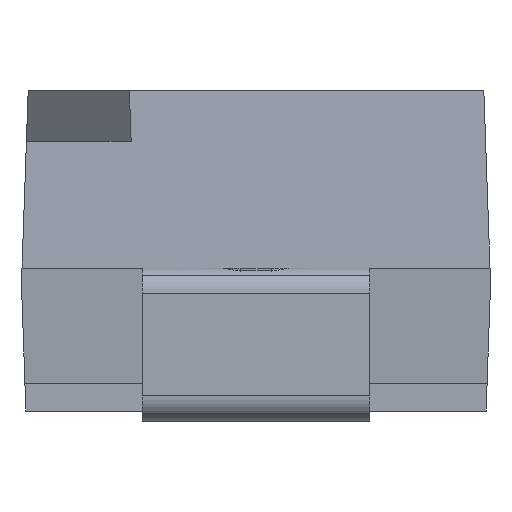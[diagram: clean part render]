
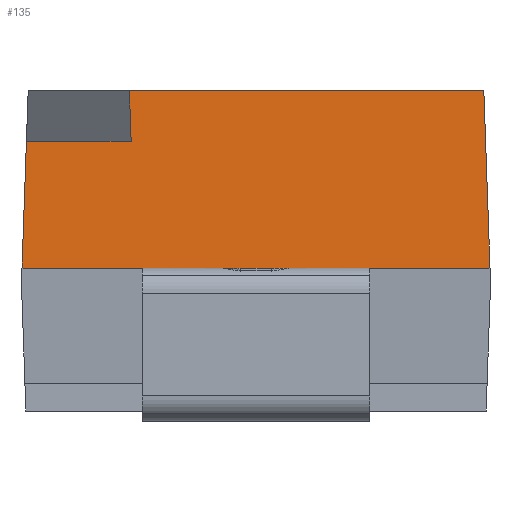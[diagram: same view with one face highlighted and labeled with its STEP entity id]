
A CAD part, front view. The second image highlights one B-rep face of the part: STEP entity #135.
In plain terms, the highlighted planar face has unit normal (0, -0.999, 0.035).
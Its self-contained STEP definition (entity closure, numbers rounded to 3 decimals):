
#135=ADVANCED_FACE('',(#276),#277,.T.);
#276=FACE_OUTER_BOUND('',#465,.T.);
#277=PLANE('',#466);
#465=EDGE_LOOP('',(#1033,#1034,#1035,#1036,#1037,#1038,#1039,#1040,#1041,#1042));
#466=AXIS2_PLACEMENT_3D('',#1043,#1044,#1045);
#1033=ORIENTED_EDGE('',*,*,#1371,.T.);
#1034=ORIENTED_EDGE('',*,*,#1369,.T.);
#1035=ORIENTED_EDGE('',*,*,#1368,.T.);
#1036=ORIENTED_EDGE('',*,*,#1385,.T.);
#1037=ORIENTED_EDGE('',*,*,#1403,.F.);
#1038=ORIENTED_EDGE('',*,*,#1404,.T.);
#1039=ORIENTED_EDGE('',*,*,#1405,.F.);
#1040=ORIENTED_EDGE('',*,*,#1383,.T.);
#1041=ORIENTED_EDGE('',*,*,#1363,.F.);
#1042=ORIENTED_EDGE('',*,*,#1358,.F.);
#1043=CARTESIAN_POINT('',(-0.9,-1.,0.0));
#1044=DIRECTION('',(0.,-0.999,0.035));
#1045=DIRECTION('',(-1.0,0.,0.0));
#1358=EDGE_CURVE('',#1684,#1686,#1687,.T.);
#1363=EDGE_CURVE('',#1686,#1690,#1694,.T.);
#1368=EDGE_CURVE('',#1695,#1701,#1703,.T.);
#1369=EDGE_CURVE('',#1704,#1695,#1705,.T.);
#1371=EDGE_CURVE('',#1684,#1704,#1707,.T.);
#1383=EDGE_CURVE('',#1721,#1690,#1725,.T.);
#1385=EDGE_CURVE('',#1701,#1727,#1729,.T.);
#1403=EDGE_CURVE('',#1759,#1727,#1760,.T.);
#1404=EDGE_CURVE('',#1759,#1761,#1762,.T.);
#1405=EDGE_CURVE('',#1721,#1761,#1763,.T.);
#1684=VERTEX_POINT('',#2197);
#1686=VERTEX_POINT('',#2200);
#1687=LINE('',#2201,#2202);
#1690=VERTEX_POINT('',#2207);
#1694=LINE('',#2213,#2214);
#1695=VERTEX_POINT('',#2215);
#1701=VERTEX_POINT('',#2224);
#1703=LINE('',#2227,#2228);
#1704=VERTEX_POINT('',#2229);
#1705=LINE('',#2230,#2231);
#1707=LINE('',#2234,#2235);
#1721=VERTEX_POINT('',#2258);
#1725=LINE('',#2264,#2265);
#1727=VERTEX_POINT('',#2267);
#1729=LINE('',#2270,#2271);
#1759=VERTEX_POINT('',#2315);
#1760=LINE('',#2316,#2317);
#1761=VERTEX_POINT('',#2318);
#1762=LINE('',#2319,#2320);
#1763=LINE('',#2321,#2322);
#2197=CARTESIAN_POINT('',(-0.5,-1.,0.0));
#2200=CARTESIAN_POINT('',(0.9,-1.,0.0));
#2201=CARTESIAN_POINT('',(-0.5,-1.,0.0));
#2202=VECTOR('',#2654,1.4);
#2207=CARTESIAN_POINT('',(0.924,-1.024,-0.7));
#2213=CARTESIAN_POINT('',(0.9,-1.,0.0));
#2214=VECTOR('',#2659,0.701);
#2215=CARTESIAN_POINT('',(-0.907,-1.007,-0.2));
#2224=CARTESIAN_POINT('',(-0.924,-1.024,-0.7));
#2227=CARTESIAN_POINT('',(-0.907,-1.007,-0.2));
#2228=VECTOR('',#2664,0.501);
#2229=CARTESIAN_POINT('',(-0.493,-1.007,-0.2));
#2230=CARTESIAN_POINT('',(-0.493,-1.007,-0.2));
#2231=VECTOR('',#2665,0.414);
#2234=CARTESIAN_POINT('',(-0.5,-1.,0.0));
#2235=VECTOR('',#2667,0.2);
#2258=CARTESIAN_POINT('',(0.45,-1.024,-0.7));
#2264=CARTESIAN_POINT('',(0.45,-1.024,-0.7));
#2265=VECTOR('',#2679,0.474);
#2267=CARTESIAN_POINT('',(-0.45,-1.024,-0.7));
#2270=CARTESIAN_POINT('',(-0.924,-1.024,-0.7));
#2271=VECTOR('',#2681,0.474);
#2315=CARTESIAN_POINT('',(-0.138,-1.024,-0.7));
#2316=CARTESIAN_POINT('',(-0.138,-1.024,-0.7));
#2317=VECTOR('',#2705,0.312);
#2318=CARTESIAN_POINT('',(0.138,-1.024,-0.7));
#2319=CARTESIAN_POINT('',(-0.138,-1.024,-0.7));
#2320=VECTOR('',#2706,0.277);
#2321=CARTESIAN_POINT('',(0.45,-1.024,-0.7));
#2322=VECTOR('',#2707,0.312);
#2654=DIRECTION('',(1.0,0.,0.0));
#2659=DIRECTION('',(0.035,-0.035,-0.999));
#2664=DIRECTION('',(-0.035,-0.035,-0.999));
#2665=DIRECTION('',(-1.0,0.,0.0));
#2667=DIRECTION('',(0.035,-0.035,-0.999));
#2679=DIRECTION('',(1.0,0.,0.0));
#2681=DIRECTION('',(1.0,0.,0.0));
#2705=DIRECTION('',(-1.0,0.,0.0));
#2706=DIRECTION('',(1.0,0.,0.0));
#2707=DIRECTION('',(-1.0,0.,0.0));
